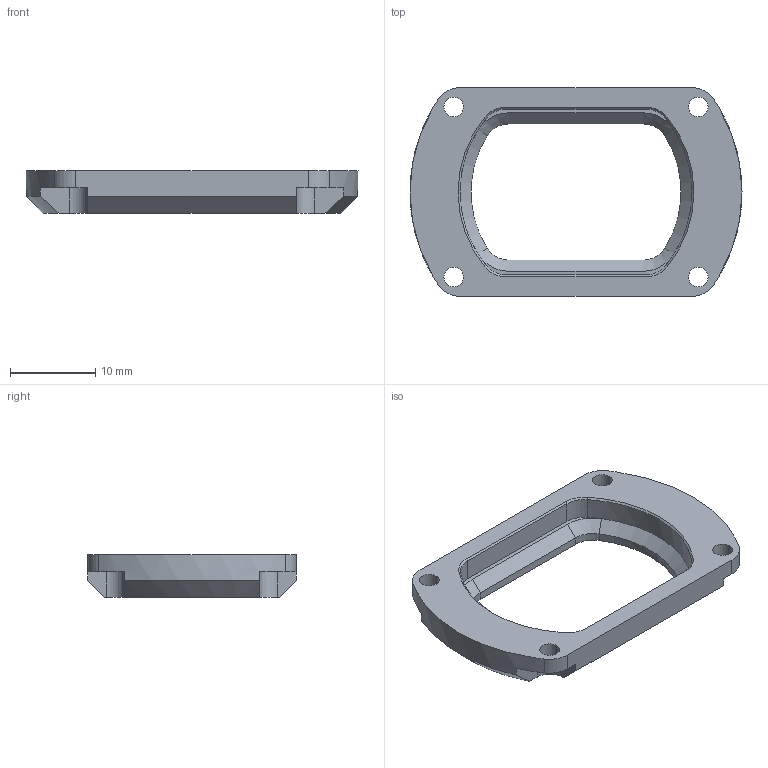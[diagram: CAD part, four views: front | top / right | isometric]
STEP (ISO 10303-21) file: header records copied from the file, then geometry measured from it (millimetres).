
FILE_DESCRIPTION(('CATIA V5 STEP Exchange','CAx-IF Rec.Pracs.--- Model Styling and Organization---1.4--- 2014-01-23','CAx-IF Rec.Pracs.---3D Tessellated Data Validation Properties---0.5---2014-09-14'),'2;1');
FILE_NAME('C:\Users\IS33\Desktop\220112移動データ\手配用データ\DT341M509-00-.stp','2022-01-13T00:27:20+00:00',('none'),('none'),'CATIA Version 5-6 Release 2019 SP3','CATIA V5 STEP AP242 v1','none');
FILE_SCHEMA(('AP242_MANAGED_MODEL_BASED_3D_ENGINEERING_MIM_LF {1 0 10303 442 1 1 4}'));
Length unit declared in the file: millimetre
Products named in the file (1): COVER_LENS3_3-3
Bounding box: 39 x 24.5 x 5 mm (x, y, z)
Volume: 1816.9 mm3; surface area: 1858.6 mm2
Topology: 1 solids, 1 shells, 72 faces, 202 edges, 132 vertices
Faces by surface type: cylinder 30, plane 28, cone 14
Entity records: 2247 total; most frequent: CARTESIAN_POINT 407, ORIENTED_EDGE 404, DIRECTION 318, EDGE_CURVE 202, AXIS2_PLACEMENT_3D 153, VERTEX_POINT 132, VECTOR 106, LINE 106
